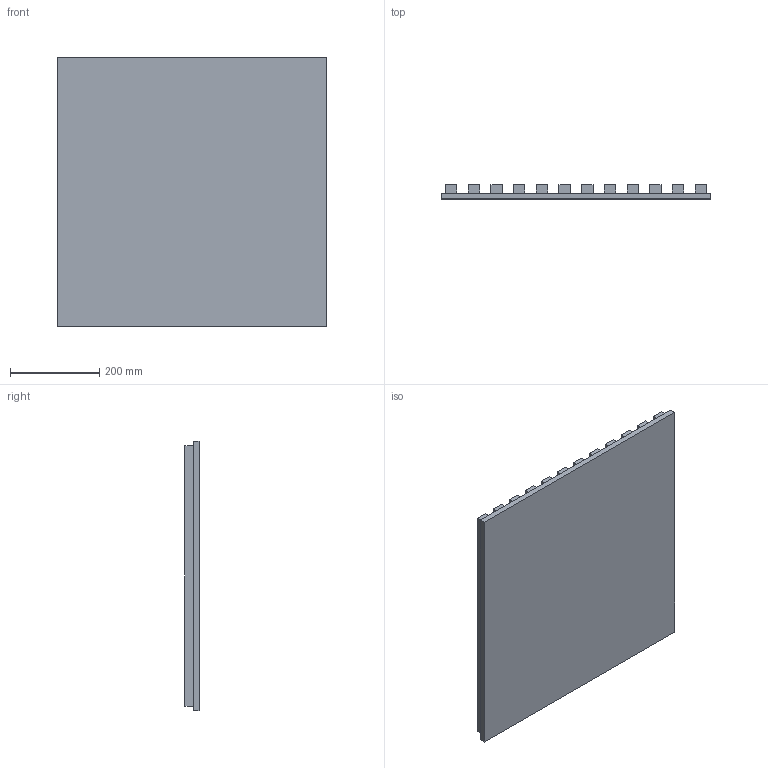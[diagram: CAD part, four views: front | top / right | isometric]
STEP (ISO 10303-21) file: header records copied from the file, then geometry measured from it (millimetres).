
FILE_DESCRIPTION(/* description */ (''),/* implementation_level */ '2;1');
FILE_NAME(/* name */ 'Y:\Design and Engineering\MaterialLogiq\CAD ASSETS\MASTER\SLATTA\PARAMETRIC\Slatta_Tile_2x2_0.75.stp',/* time_stamp */ '2024-03-19T10:18:52-05:00',/* author */ ('Grant Baker'),/* organization */ (''),/* preprocessor_version */ 'ST-DEVELOPER v19',/* originating_system */ 'Autodesk Inventor 2023',/* authorisation */ '');
FILE_SCHEMA (('AUTOMOTIVE_DESIGN { 1 0 10303 214 3 1 1 }'));
Length unit declared in the file: inch
Products named in the file (3): Slatta_Tile_Parametric; Slatta_Tile - Backer; Slatta_Tile - Slat
Assembly tree (13 placements, depth 2):
  Slatta_Tile_Parametric
    Slatta_Tile - Backer
    Slatta_Tile - Slat  x12
Bounding box: 603.25 x 31.75 x 603.25 mm (x, y, z)
Volume: 8013786.4 mm3; surface area: 1393303.7 mm2
Topology: 13 solids, 13 shells, 78 faces, 156 edges, 104 vertices
Faces by surface type: plane 78
Entity records: 505 total; most frequent: DIRECTION 80, CARTESIAN_POINT 68, ORIENTED_EDGE 48, AXIS2_PLACEMENT_3D 28, LINE 24, VECTOR 24, EDGE_CURVE 24, VERTEX_POINT 16
